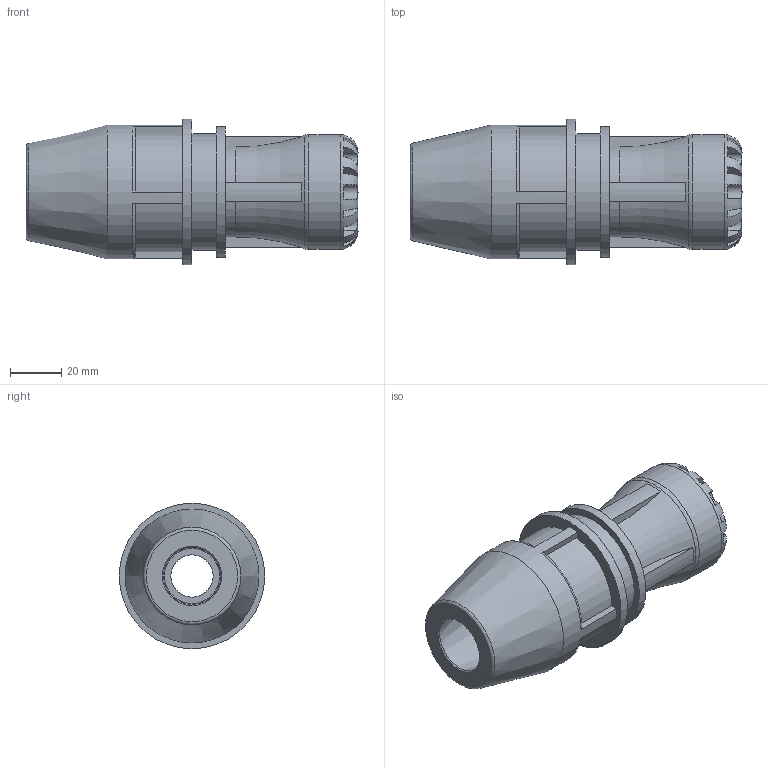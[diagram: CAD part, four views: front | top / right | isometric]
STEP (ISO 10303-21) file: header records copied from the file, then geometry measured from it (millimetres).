
FILE_DESCRIPTION(/* description */ ('PLASSON UNIVERSAL COUPLING 19-22X25 SERIES 1'),/* implementation_level */ '2;1');
FILE_NAME(/* name */ 'C:\Dropbox\KIMPROJECTS-Inventor\99-16-3568-Processing\S1\27.01.19\10017\100170025022.ipt.stp',/* time_stamp */ '2019-01-27T09:11:59+02:00',/* author */ ('KIM'),/* organization */ (''),/* preprocessor_version */ 'ST-DEVELOPER v15.6',/* originating_system */ 'Autodesk Inventor 2015',/* authorisation */ '');
FILE_SCHEMA (('AUTOMOTIVE_DESIGN { 1 0 10303 214 3 1 1 }'));
Length unit declared in the file: millimetre
Products named in the file (1): 100170025022
Bounding box: 130 x 57 x 57 mm (x, y, z)
Volume: 145618.3 mm3; surface area: 36464.2 mm2
Topology: 1 solids, 1 shells, 125 faces, 316 edges, 200 vertices
Faces by surface type: plane 77, cylinder 36, torus 8, cone 4
Full cylindrical faces by diameter (mm): 16.56 x1, 21.56 x1, 25 x1, 45 x1, 45.6 x1, 51.3 x1, 52.44 x1, 57 x1
Entity records: 4413 total; most frequent: CARTESIAN_POINT 1336, DIRECTION 616, ORIENTED_EDGE 596, EDGE_CURVE 298, AXIS2_PLACEMENT_3D 248, VERTEX_POINT 198, EDGE_LOOP 150, STYLED_ITEM 126
